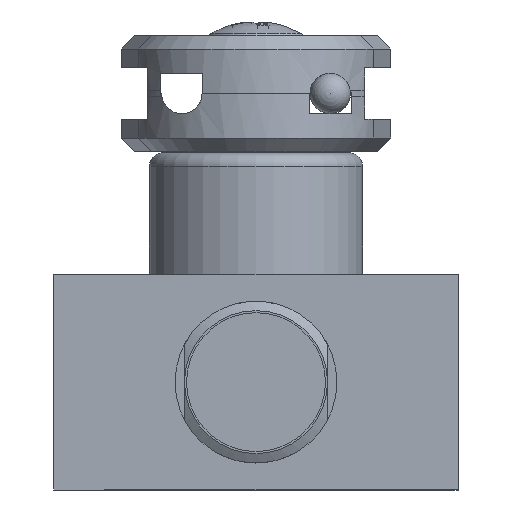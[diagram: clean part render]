
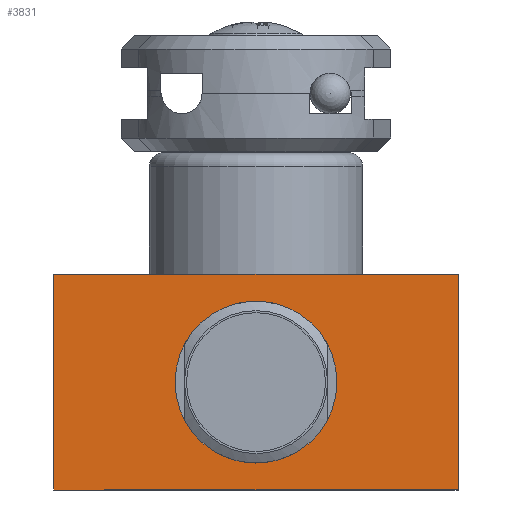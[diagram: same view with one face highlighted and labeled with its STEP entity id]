
A CAD part, front view. The second image highlights one B-rep face of the part: STEP entity #3831.
In plain terms, the highlighted planar face has unit normal (0, -1, 0) as drawn and (0, 0, -1) by its records, which use the part's own axes.
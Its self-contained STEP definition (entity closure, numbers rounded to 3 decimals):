
#392=FACE_OUTER_BOUND('',#614,.T.);
#614=EDGE_LOOP('',(#2498,#2499,#2500,#2501));
#859=LINE('',#5800,#1211);
#860=LINE('',#5802,#1212);
#861=LINE('',#5804,#1213);
#862=LINE('',#5805,#1214);
#1211=VECTOR('',#4662,1.25);
#1212=VECTOR('',#4663,30.);
#1213=VECTOR('',#4664,16.);
#1214=VECTOR('',#4665,30.);
#1563=VERTEX_POINT('',#5798);
#1564=VERTEX_POINT('',#5799);
#1565=VERTEX_POINT('',#5801);
#1566=VERTEX_POINT('',#5803);
#1934=EDGE_CURVE('',#1563,#1564,#859,.T.);
#1935=EDGE_CURVE('',#1565,#1563,#860,.T.);
#1936=EDGE_CURVE('',#1566,#1565,#861,.T.);
#1937=EDGE_CURVE('',#1564,#1566,#862,.T.);
#2498=ORIENTED_EDGE('',*,*,#1934,.F.);
#2499=ORIENTED_EDGE('',*,*,#1935,.F.);
#2500=ORIENTED_EDGE('',*,*,#1936,.F.);
#2501=ORIENTED_EDGE('',*,*,#1937,.F.);
#3626=PLANE('',#4263);
#3831=ADVANCED_FACE('',(#392),#3626,.T.);
#4263=AXIS2_PLACEMENT_3D('',#5797,#4660,#4661);
#4660=DIRECTION('center_axis',(0.,0.,-1.));
#4661=DIRECTION('ref_axis',(-1.,0.,0.));
#4662=DIRECTION('',(0.,1.,0.));
#4663=DIRECTION('',(1.,0.,0.));
#4664=DIRECTION('',(0.,-1.,0.));
#4665=DIRECTION('',(-1.,0.,0.));
#5797=CARTESIAN_POINT('Origin',(15.,-2.2,-43.));
#5798=CARTESIAN_POINT('',(15.,-16.,-43.));
#5799=CARTESIAN_POINT('',(15.,0.,-43.));
#5800=CARTESIAN_POINT('',(15.,-1.25,-43.));
#5801=CARTESIAN_POINT('',(-15.,-16.,-43.));
#5802=CARTESIAN_POINT('',(-15.,-16.,-43.));
#5803=CARTESIAN_POINT('',(-15.,0.,-43.));
#5804=CARTESIAN_POINT('',(-15.,0.,-43.));
#5805=CARTESIAN_POINT('',(15.,0.,-43.));
